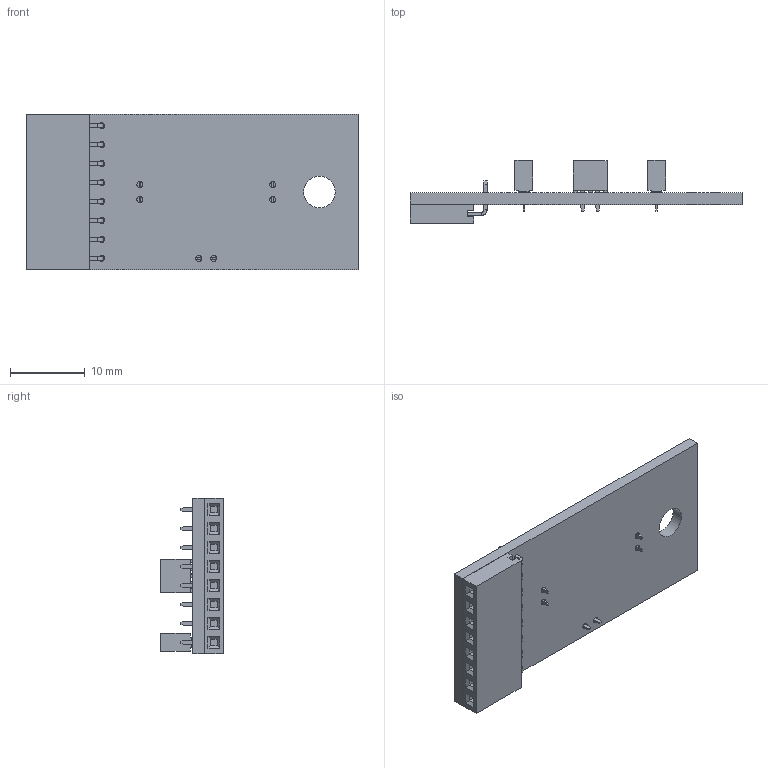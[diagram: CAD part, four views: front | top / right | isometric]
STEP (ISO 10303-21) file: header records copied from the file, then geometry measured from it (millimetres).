
FILE_DESCRIPTION (( 'STEP AP214' ), '1' );
FILE_NAME ('DGS2.STEP', '2025-10-21T21:34:57', ( '' ), ( '' ), 'SwSTEP 2.0', 'SolidWorks 2020', '' );
FILE_SCHEMA (( 'AUTOMOTIVE_DESIGN' ));
Length unit declared in the file: millimetre
Products named in the file (4): PPPC081LGBN-RC; DGS2; 950502-6102-AR; ULPSM Board
Assembly tree (5 placements, depth 2):
  DGS2
    ULPSM Board
    950502-6102-AR  x3
    PPPC081LGBN-RC
Bounding box: 44.45 x 8.41 x 20.83 mm (x, y, z)
Volume: 1960.8 mm3; surface area: 3209.7 mm2
Topology: 5 solids, 5 shells, 394 faces, 939 edges, 586 vertices
Faces by surface type: plane 345, cylinder 49
Full cylindrical faces by diameter (mm): 0.8 x14, 4.216 x1
Entity records: 9269 total; most frequent: CARTESIAN_POINT 1330, DIRECTION 1290, ORIENTED_EDGE 1280, EDGE_CURVE 640, VECTOR 566, LINE 566, VERTEX_POINT 402, AXIS2_PLACEMENT_3D 362
